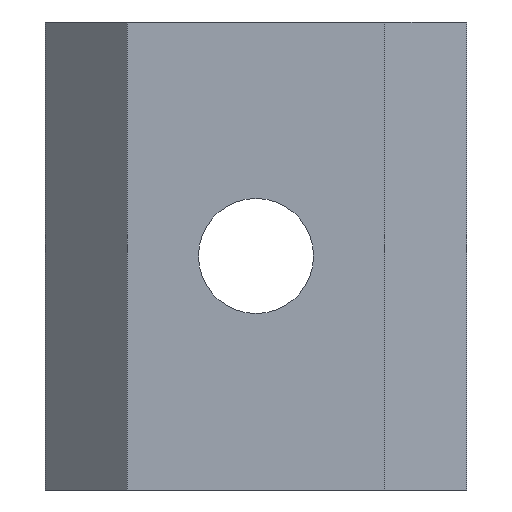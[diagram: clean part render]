
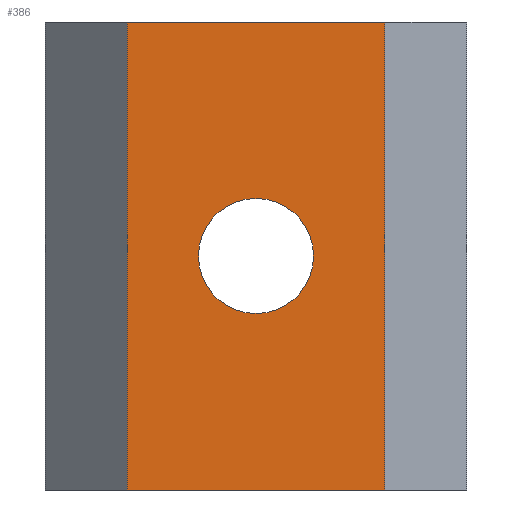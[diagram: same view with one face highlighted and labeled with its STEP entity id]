
A CAD part, front view. The second image highlights one B-rep face of the part: STEP entity #386.
In plain terms, the highlighted planar face has unit normal (0, -1, 0).
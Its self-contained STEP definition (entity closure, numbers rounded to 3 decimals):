
#145=CARTESIAN_POINT('',(11.458,0.0,-10.0));
#146=VERTEX_POINT('',#145);
#147=CARTESIAN_POINT('',(9.0,0.0,-10.0));
#148=DIRECTION('',(0.0,1.0,0.0));
#149=DIRECTION('',(1.0,0.0,0.0));
#150=AXIS2_PLACEMENT_3D('',#147,#148,#149);
#151=CIRCLE('',#150,2.459);
#152=EDGE_CURVE('',#146,#146,#151,.T.);
#318=CARTESIAN_POINT('',(14.5,0.0,-20.0));
#319=VERTEX_POINT('',#318);
#336=CARTESIAN_POINT('',(14.5,0.0,0.0));
#337=VERTEX_POINT('',#336);
#344=CARTESIAN_POINT('',(14.5,0.0,0.0));
#345=DIRECTION('',(0.0,0.0,-1.0));
#346=VECTOR('',#345,20.0);
#347=LINE('',#344,#346);
#348=EDGE_CURVE('',#337,#319,#347,.T.);
#353=CARTESIAN_POINT('',(0.0,0.0,0.0));
#354=DIRECTION('',(0.0,-1.0,0.0));
#355=DIRECTION('',(0.0,0.0,-1.0));
#356=AXIS2_PLACEMENT_3D('',#353,#354,#355);
#357=PLANE('',#356);
#358=ORIENTED_EDGE('',*,*,#348,.F.);
#359=CARTESIAN_POINT('',(3.5,0.0,0.0));
#360=VERTEX_POINT('',#359);
#361=CARTESIAN_POINT('',(3.5,0.0,0.0));
#362=DIRECTION('',(1.0,0.0,0.0));
#363=VECTOR('',#362,11.0);
#364=LINE('',#361,#363);
#365=EDGE_CURVE('',#360,#337,#364,.T.);
#366=ORIENTED_EDGE('',*,*,#365,.F.);
#367=CARTESIAN_POINT('',(3.5,0.0,-20.0));
#368=VERTEX_POINT('',#367);
#369=CARTESIAN_POINT('',(3.5,0.0,-20.0));
#370=DIRECTION('',(0.0,0.0,1.0));
#371=VECTOR('',#370,20.0);
#372=LINE('',#369,#371);
#373=EDGE_CURVE('',#368,#360,#372,.T.);
#374=ORIENTED_EDGE('',*,*,#373,.F.);
#375=CARTESIAN_POINT('',(3.5,0.0,-20.0));
#376=DIRECTION('',(1.0,0.0,0.0));
#377=VECTOR('',#376,11.0);
#378=LINE('',#375,#377);
#379=EDGE_CURVE('',#368,#319,#378,.T.);
#380=ORIENTED_EDGE('',*,*,#379,.T.);
#381=EDGE_LOOP('',(#358,#366,#374,#380));
#382=FACE_OUTER_BOUND('',#381,.T.);
#383=ORIENTED_EDGE('',*,*,#152,.T.);
#384=EDGE_LOOP('',(#383));
#385=FACE_BOUND('',#384,.T.);
#386=ADVANCED_FACE('',(#382,#385),#357,.T.);
